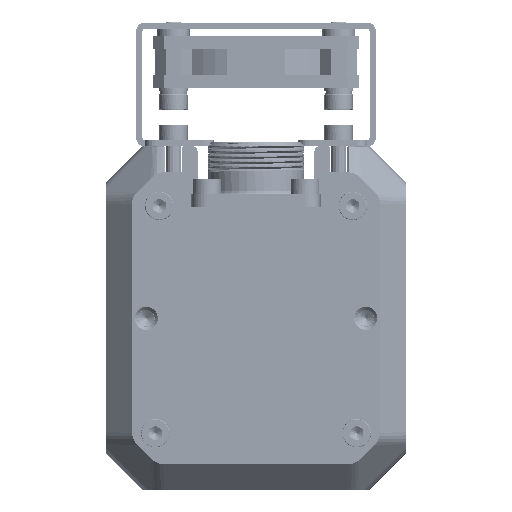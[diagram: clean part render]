
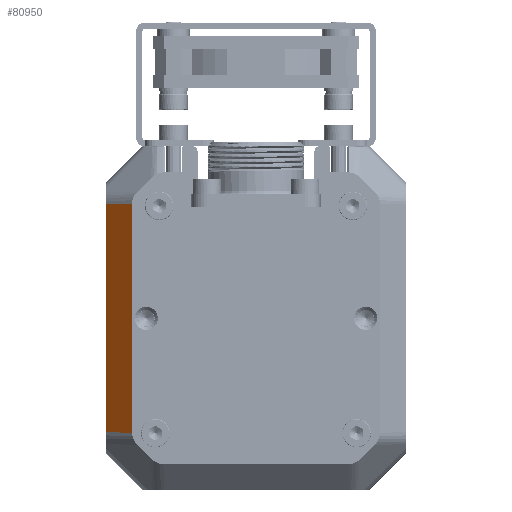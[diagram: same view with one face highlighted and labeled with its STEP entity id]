
A CAD part, front view. The second image highlights one B-rep face of the part: STEP entity #80950.
In plain terms, the highlighted planar face has unit normal (-0.707, -0.707, 0) as drawn and (0.707, 0, 0.707) by its records, which use the part's own axes.
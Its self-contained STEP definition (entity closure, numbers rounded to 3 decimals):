
#74766=DIRECTION('',(0.,1.,0.));
#74767=VECTOR('',#74766,44.094);
#74768=CARTESIAN_POINT('',(29.,-55.297,-5.));
#74769=LINE('',#74768,#74767);
#75615=CARTESIAN_POINT('',(29.,-55.297,-5.));
#75625=DIRECTION('',(-0.707,-0.02,0.707));
#75626=VECTOR('',#75625,7.072);
#75627=CARTESIAN_POINT('',(29.,-55.297,-5.));
#75628=LINE('',#75627,#75626);
#75632=DIRECTION('',(0.,1.,0.));
#75633=VECTOR('',#75632,44.371);
#75634=CARTESIAN_POINT('',(24.,-55.435,0.));
#75635=LINE('',#75634,#75633);
#75639=DIRECTION('',(0.707,-0.02,-0.707));
#75640=VECTOR('',#75639,7.072);
#75641=CARTESIAN_POINT('',(24.,-11.065,0.));
#75642=LINE('',#75641,#75640);
#75646=CARTESIAN_POINT('',(24.,-11.065,0.));
#77253=VERTEX_POINT('',#75646);
#77254=CARTESIAN_POINT('',(24.,-55.435,0.));
#77255=VERTEX_POINT('',#77254);
#77920=VERTEX_POINT('',#75615);
#77921=CARTESIAN_POINT('',(29.,-11.203,-5.));
#77922=VERTEX_POINT('',#77921);
#80938=CARTESIAN_POINT('',(26.5,-33.25,-2.5));
#80939=DIRECTION('',(0.707,0.,0.707));
#80940=DIRECTION('',(0.707,0.,-0.707));
#80941=AXIS2_PLACEMENT_3D('',#80938,#80939,#80940);
#80942=PLANE('',#80941);
#80943=ORIENTED_EDGE('',*,*,#80120,.F.);
#80944=ORIENTED_EDGE('',*,*,#80931,.T.);
#80945=ORIENTED_EDGE('',*,*,#78196,.T.);
#80947=ORIENTED_EDGE('',*,*,#80946,.T.);
#80948=EDGE_LOOP('',(#80943,#80944,#80945,#80947));
#80949=FACE_OUTER_BOUND('',#80948,.F.);
#78196=EDGE_CURVE('',#77255,#77253,#75635,.T.);
#80120=EDGE_CURVE('',#77920,#77922,#74769,.T.);
#80931=EDGE_CURVE('',#77920,#77255,#75628,.T.);
#80946=EDGE_CURVE('',#77253,#77922,#75642,.T.);
#80950=ADVANCED_FACE('',(#80949),#80942,.T.);
